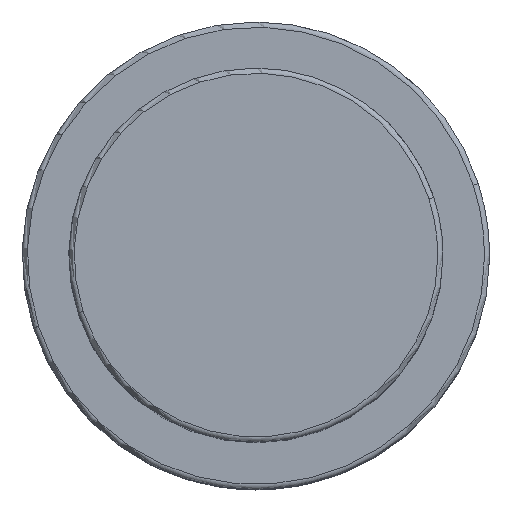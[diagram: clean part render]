
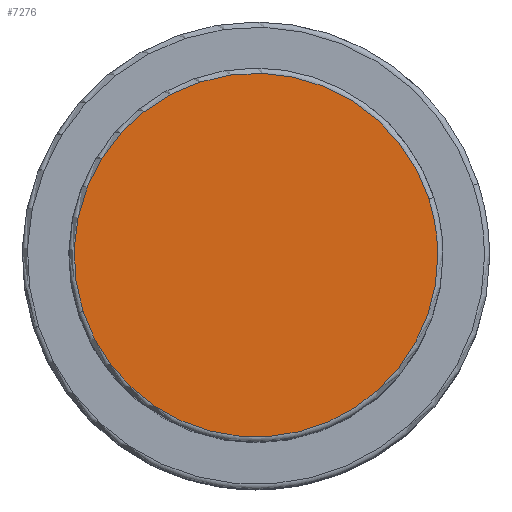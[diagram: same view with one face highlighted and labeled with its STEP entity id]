
A CAD part, top view. The second image highlights one B-rep face of the part: STEP entity #7276.
In plain terms, the highlighted planar face has unit normal (0, 0, 1).
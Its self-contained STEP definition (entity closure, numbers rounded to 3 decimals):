
#7209=CARTESIAN_POINT('',(16.643,5.408,63.0));
#7210=VERTEX_POINT('',#7209);
#7228=CARTESIAN_POINT('',(-16.643,-5.408,63.0));
#7229=VERTEX_POINT('',#7228);
#7237=CARTESIAN_POINT('',(0.0,0.0,63.0));
#7238=DIRECTION('',(0.0,0.0,1.0));
#7239=DIRECTION('',(1.0,0.0,0.0));
#7240=AXIS2_PLACEMENT_3D('',#7237,#7238,#7239);
#7241=CIRCLE('',#7240,17.5);
#7242=EDGE_CURVE('no 3652',#7210,#7229,#7241,.T.);
#7252=CARTESIAN_POINT('',(17.5,0.0,63.0));
#7253=VERTEX_POINT('',#7252);
#7254=CARTESIAN_POINT('',(0.0,0.0,63.0));
#7255=DIRECTION('',(0.0,0.0,1.0));
#7256=DIRECTION('',(1.0,0.0,0.0));
#7257=AXIS2_PLACEMENT_3D('',#7254,#7255,#7256);
#7258=CIRCLE('',#7257,17.5);
#7259=EDGE_CURVE('no 3661',#7253,#7210,#7258,.T.);
#7260=ORIENTED_EDGE('',*,*,#7259,.T.);
#7261=ORIENTED_EDGE('',*,*,#7242,.T.);
#7262=CARTESIAN_POINT('',(0.0,0.0,63.0));
#7263=DIRECTION('',(0.0,0.0,1.0));
#7264=DIRECTION('',(1.0,0.0,0.0));
#7265=AXIS2_PLACEMENT_3D('',#7262,#7263,#7264);
#7266=CIRCLE('',#7265,17.5);
#7267=EDGE_CURVE('no 3667',#7229,#7253,#7266,.T.);
#7268=ORIENTED_EDGE('',*,*,#7267,.T.);
#7269=EDGE_LOOP('',(#7260,#7261,#7268));
#7270=FACE_OUTER_BOUND('',#7269,.T.);
#7271=CARTESIAN_POINT('',(0.0,0.0,63.0));
#7272=DIRECTION('',(0.0,0.0,1.0));
#7273=DIRECTION('',(1.0,0.0,0.0));
#7274=AXIS2_PLACEMENT_3D('',#7271,#7272,#7273);
#7275=PLANE('',#7274);
#7276=ADVANCED_FACE('no 3654',(#7270),#7275,.T.);
